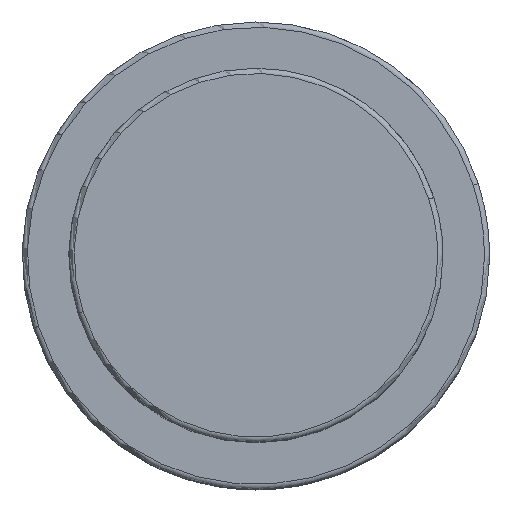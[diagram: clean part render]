
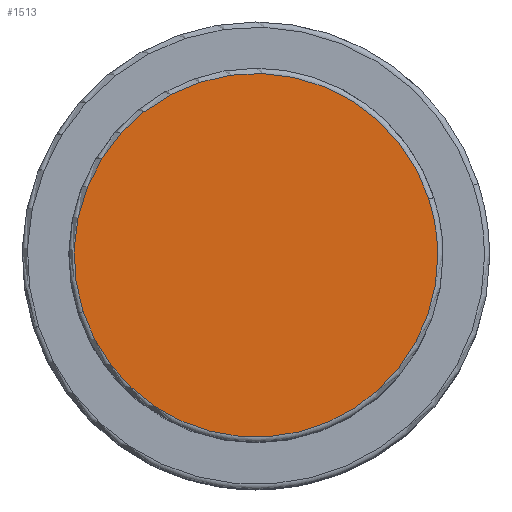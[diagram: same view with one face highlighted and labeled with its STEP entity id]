
A CAD part, top view. The second image highlights one B-rep face of the part: STEP entity #1513.
In plain terms, the highlighted planar face has unit normal (0, 0, 1).
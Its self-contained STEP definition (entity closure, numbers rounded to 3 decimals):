
#1446=CARTESIAN_POINT('',(16.643,5.408,53.0));
#1447=VERTEX_POINT('',#1446);
#1465=CARTESIAN_POINT('',(-16.643,-5.408,53.0));
#1466=VERTEX_POINT('',#1465);
#1474=CARTESIAN_POINT('',(0.0,0.0,53.0));
#1475=DIRECTION('',(0.0,0.0,1.0));
#1476=DIRECTION('',(1.0,0.0,0.0));
#1477=AXIS2_PLACEMENT_3D('',#1474,#1475,#1476);
#1478=CIRCLE('',#1477,17.5);
#1479=EDGE_CURVE('no 1735',#1447,#1466,#1478,.T.);
#1489=CARTESIAN_POINT('',(17.5,0.0,53.0));
#1490=VERTEX_POINT('',#1489);
#1491=CARTESIAN_POINT('',(0.0,0.0,53.0));
#1492=DIRECTION('',(0.0,0.0,1.0));
#1493=DIRECTION('',(1.0,0.0,0.0));
#1494=AXIS2_PLACEMENT_3D('',#1491,#1492,#1493);
#1495=CIRCLE('',#1494,17.5);
#1496=EDGE_CURVE('no 1744',#1490,#1447,#1495,.T.);
#1497=ORIENTED_EDGE('',*,*,#1496,.T.);
#1498=ORIENTED_EDGE('',*,*,#1479,.T.);
#1499=CARTESIAN_POINT('',(0.0,0.0,53.0));
#1500=DIRECTION('',(0.0,0.0,1.0));
#1501=DIRECTION('',(1.0,0.0,0.0));
#1502=AXIS2_PLACEMENT_3D('',#1499,#1500,#1501);
#1503=CIRCLE('',#1502,17.5);
#1504=EDGE_CURVE('no 1750',#1466,#1490,#1503,.T.);
#1505=ORIENTED_EDGE('',*,*,#1504,.T.);
#1506=EDGE_LOOP('',(#1497,#1498,#1505));
#1507=FACE_OUTER_BOUND('',#1506,.T.);
#1508=CARTESIAN_POINT('',(0.0,0.0,53.0));
#1509=DIRECTION('',(0.0,0.0,1.0));
#1510=DIRECTION('',(1.0,0.0,0.0));
#1511=AXIS2_PLACEMENT_3D('',#1508,#1509,#1510);
#1512=PLANE('',#1511);
#1513=ADVANCED_FACE('no 1737',(#1507),#1512,.T.);
